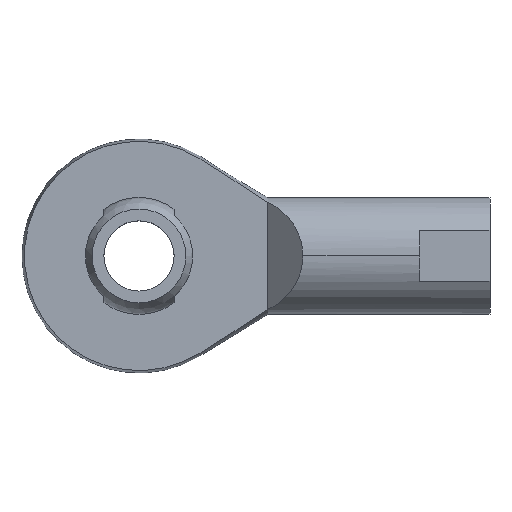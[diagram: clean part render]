
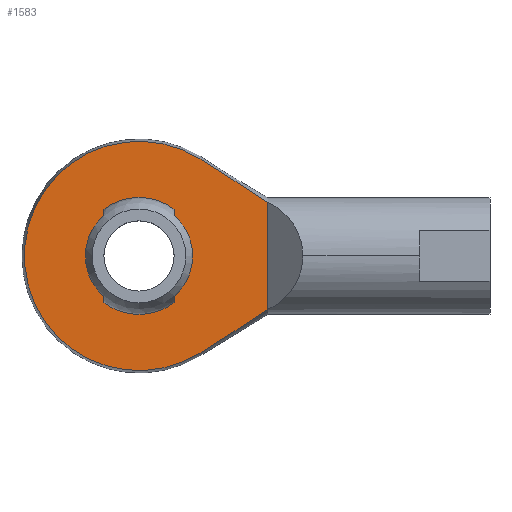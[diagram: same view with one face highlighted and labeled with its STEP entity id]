
A CAD part, top view. The second image highlights one B-rep face of the part: STEP entity #1583.
In plain terms, the highlighted planar face has unit normal (0, 0, 1).
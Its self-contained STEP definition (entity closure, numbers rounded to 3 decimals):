
#123 = DIRECTION ( 'NONE',  ( 0., -1., 0. ) ) ;
#131 = DIRECTION ( 'NONE',  ( -1., 0., 0. ) ) ;
#132 = DIRECTION ( 'NONE',  ( 0., 0., -1. ) ) ;
#141 = VECTOR ( 'NONE', #123, 1000. ) ;
#142 = CARTESIAN_POINT ( 'NONE',  ( -3., 4., 2. ) ) ;
#143 = LINE ( 'NONE', #142, #141 ) ;
#144 = CARTESIAN_POINT ( 'NONE',  ( -3., 4., 2. ) ) ;
#153 = DIRECTION ( 'NONE',  ( 0., 1., 0. ) ) ;
#154 = VECTOR ( 'NONE', #153, 1000. ) ;
#155 = CARTESIAN_POINT ( 'NONE',  ( 3., 4., 2. ) ) ;
#156 = LINE ( 'NONE', #155, #154 ) ;
#177 = ORIENTED_EDGE ( 'NONE', *, *, #1260, .T. ) ;
#182 = ORIENTED_EDGE ( 'NONE', *, *, #212, .T. ) ;
#183 = EDGE_CURVE ( 'NONE', #1368, #1285, #1158, .T. ) ;
#212 = EDGE_CURVE ( 'NONE', #1285, #1259, #1051, .T. ) ;
#233 = VERTEX_POINT ( 'NONE', #1073 ) ;
#236 = VERTEX_POINT ( 'NONE', #1088 ) ;
#244 = VERTEX_POINT ( 'NONE', #1076 ) ;
#245 = ORIENTED_EDGE ( 'NONE', *, *, #251, .T. ) ;
#248 = ORIENTED_EDGE ( 'NONE', *, *, #322, .F. ) ;
#249 = ORIENTED_EDGE ( 'NONE', *, *, #250, .F. ) ;
#250 = EDGE_CURVE ( 'NONE', #244, #233, #1099, .T. ) ;
#251 = EDGE_CURVE ( 'NONE', #1565, #236, #1062, .T. ) ;
#253 = ORIENTED_EDGE ( 'NONE', *, *, #1584, .F. ) ;
#259 = ORIENTED_EDGE ( 'NONE', *, *, #260, .F. ) ;
#260 = EDGE_CURVE ( 'NONE', #1250, #244, #1101, .T. ) ;
#278 = CARTESIAN_POINT ( 'NONE',  ( 0., 0., 2. ) ) ;
#279 = AXIS2_PLACEMENT_3D ( 'NONE', #278, #132, #131 ) ;
#280 = CIRCLE ( 'NONE', #279, 4.583 ) ;
#322 = EDGE_CURVE ( 'NONE', #233, #236, #156, .T. ) ;
#324 = VERTEX_POINT ( 'NONE', #144 ) ;
#325 = EDGE_CURVE ( 'NONE', #324, #1241, #143, .T. ) ;
#351 = CARTESIAN_POINT ( 'NONE',  ( -3., 3.464, 2. ) ) ;
#359 = DIRECTION ( 'NONE',  ( -1., 0., 0. ) ) ;
#360 = DIRECTION ( 'NONE',  ( 0., 0., 1. ) ) ;
#361 = CARTESIAN_POINT ( 'NONE',  ( 0., 0., 2. ) ) ;
#362 = AXIS2_PLACEMENT_3D ( 'NONE', #361, #360, #359 ) ;
#363 = CIRCLE ( 'NONE', #362, 9.798 ) ;
#367 = CARTESIAN_POINT ( 'NONE',  ( 5.212, 8.297, 2. ) ) ;
#383 = CARTESIAN_POINT ( 'NONE',  ( -3., -3.464, 2. ) ) ;
#408 = CARTESIAN_POINT ( 'NONE',  ( 5.212, -8.297, 2. ) ) ;
#428 = CARTESIAN_POINT ( 'NONE',  ( 11., 4.583, 2. ) ) ;
#462 = CARTESIAN_POINT ( 'NONE',  ( 11., -4.583, 2. ) ) ;
#463 = CARTESIAN_POINT ( 'NONE',  ( 10.046, -5.218, 2. ) ) ;
#464 = CARTESIAN_POINT ( 'NONE',  ( 9.083, -5.84, 2. ) ) ;
#465 = CARTESIAN_POINT ( 'NONE',  ( 7.151, -7.075, 2. ) ) ;
#466 = CARTESIAN_POINT ( 'NONE',  ( 6.182, -7.687, 2. ) ) ;
#467 = CARTESIAN_POINT ( 'NONE',  ( 5.212, -8.297, 2. ) ) ;
#469 = B_SPLINE_CURVE_WITH_KNOTS ( 'NONE', 3,
 ( #467, #466, #465, #464, #463, #462 ),
 .UNSPECIFIED., .F., .F.,
 ( 4, 2, 4 ),
 ( 0.029, 0.033, 0.036 ),
 .UNSPECIFIED. ) ;
#588 = CARTESIAN_POINT ( 'NONE',  ( 11., -4.583, 2. ) ) ;
#734 = DIRECTION ( 'NONE',  ( 1., 0., 0. ) ) ;
#735 = DIRECTION ( 'NONE',  ( 0., 0., 1. ) ) ;
#736 = CARTESIAN_POINT ( 'NONE',  ( 0., 0., 2. ) ) ;
#737 = AXIS2_PLACEMENT_3D ( 'NONE', #736, #735, #734 ) ;
#738 = CIRCLE ( 'NONE', #737, 5. ) ;
#784 = CARTESIAN_POINT ( 'NONE',  ( 3., 3.464, 2. ) ) ;
#790 = CARTESIAN_POINT ( 'NONE',  ( 3., 4., 2. ) ) ;
#802 = PLANE ( 'NONE',  #853 ) ;
#803 = FACE_OUTER_BOUND ( 'NONE', #1513, .T. ) ;
#809 = FACE_BOUND ( 'NONE', #1586, .T. ) ;
#846 = DIRECTION ( 'NONE',  ( 0., 1., 0. ) ) ;
#847 = VECTOR ( 'NONE', #846, 1000. ) ;
#848 = CARTESIAN_POINT ( 'NONE',  ( 3., 4., 2. ) ) ;
#849 = LINE ( 'NONE', #848, #847 ) ;
#850 = DIRECTION ( 'NONE',  ( -1., 0., 0. ) ) ;
#851 = DIRECTION ( 'NONE',  ( 0., 0., -1. ) ) ;
#852 = CARTESIAN_POINT ( 'NONE',  ( -10., -10., 2. ) ) ;
#853 = AXIS2_PLACEMENT_3D ( 'NONE', #852, #851, #850 ) ;
#1035 = CARTESIAN_POINT ( 'NONE',  ( 0., 0., 2. ) ) ;
#1039 = DIRECTION ( 'NONE',  ( 0., 0., -1. ) ) ;
#1051 = B_SPLINE_CURVE_WITH_KNOTS ( 'NONE', 3,
 ( #1059, #1065, #1064, #1067, #1066, #1058 ),
 .UNSPECIFIED., .F., .F.,
 ( 4, 2, 4 ),
 ( 0.05, 0.053, 0.057 ),
 .UNSPECIFIED. ) ;
#1058 = CARTESIAN_POINT ( 'NONE',  ( 5.212, 8.297, 2. ) ) ;
#1059 = CARTESIAN_POINT ( 'NONE',  ( 11., 4.583, 2. ) ) ;
#1061 = AXIS2_PLACEMENT_3D ( 'NONE', #1035, #1039, #1103 ) ;
#1062 = CIRCLE ( 'NONE', #1061, 4.583 ) ;
#1064 = CARTESIAN_POINT ( 'NONE',  ( 9.083, 5.84, 2. ) ) ;
#1065 = CARTESIAN_POINT ( 'NONE',  ( 10.046, 5.218, 2. ) ) ;
#1066 = CARTESIAN_POINT ( 'NONE',  ( 6.182, 7.687, 2. ) ) ;
#1067 = CARTESIAN_POINT ( 'NONE',  ( 7.152, 7.075, 2. ) ) ;
#1073 = CARTESIAN_POINT ( 'NONE',  ( 3., -4., 2. ) ) ;
#1076 = CARTESIAN_POINT ( 'NONE',  ( -3., -4., 2. ) ) ;
#1080 = DIRECTION ( 'NONE',  ( 0., 0., 1. ) ) ;
#1081 = CARTESIAN_POINT ( 'NONE',  ( 0., 0., 2. ) ) ;
#1082 = AXIS2_PLACEMENT_3D ( 'NONE', #1081, #1080, #1084 ) ;
#1084 = DIRECTION ( 'NONE',  ( 1., 0., 0. ) ) ;
#1088 = CARTESIAN_POINT ( 'NONE',  ( 3., -3.464, 2. ) ) ;
#1099 = CIRCLE ( 'NONE', #1082, 5. ) ;
#1101 = LINE ( 'NONE', #1104, #1105 ) ;
#1103 = DIRECTION ( 'NONE',  ( -1., 0., 0. ) ) ;
#1104 = CARTESIAN_POINT ( 'NONE',  ( -3., 4., 2. ) ) ;
#1105 = VECTOR ( 'NONE', #1106, 1000. ) ;
#1106 = DIRECTION ( 'NONE',  ( 0., -1., 0. ) ) ;
#1155 = DIRECTION ( 'NONE',  ( 0., 1., 0. ) ) ;
#1156 = VECTOR ( 'NONE', #1155, 1000. ) ;
#1157 = CARTESIAN_POINT ( 'NONE',  ( 11., -10., 2. ) ) ;
#1158 = LINE ( 'NONE', #1157, #1156 ) ;
#1234 = EDGE_CURVE ( 'NONE', #1250, #1241, #280, .T. ) ;
#1241 = VERTEX_POINT ( 'NONE', #351 ) ;
#1250 = VERTEX_POINT ( 'NONE', #383 ) ;
#1259 = VERTEX_POINT ( 'NONE', #367 ) ;
#1260 = EDGE_CURVE ( 'NONE', #1259, #1265, #363, .T. ) ;
#1265 = VERTEX_POINT ( 'NONE', #408 ) ;
#1285 = VERTEX_POINT ( 'NONE', #428 ) ;
#1292 = EDGE_CURVE ( 'NONE', #1265, #1368, #469, .T. ) ;
#1368 = VERTEX_POINT ( 'NONE', #588 ) ;
#1513 = EDGE_LOOP ( 'NONE', ( #1515, #1517, #182, #177 ) ) ;
#1514 = EDGE_CURVE ( 'NONE', #1563, #324, #738, .T. ) ;
#1515 = ORIENTED_EDGE ( 'NONE', *, *, #1292, .T. ) ;
#1516 = ORIENTED_EDGE ( 'NONE', *, *, #1514, .F. ) ;
#1517 = ORIENTED_EDGE ( 'NONE', *, *, #183, .T. ) ;
#1531 = ORIENTED_EDGE ( 'NONE', *, *, #325, .F. ) ;
#1532 = ORIENTED_EDGE ( 'NONE', *, *, #1234, .T. ) ;
#1563 = VERTEX_POINT ( 'NONE', #790 ) ;
#1565 = VERTEX_POINT ( 'NONE', #784 ) ;
#1583 = ADVANCED_FACE ( 'NONE', ( #809, #803 ), #802, .F. ) ;
#1584 = EDGE_CURVE ( 'NONE', #1565, #1563, #849, .T. ) ;
#1586 = EDGE_LOOP ( 'NONE', ( #253, #245, #248, #249, #259, #1532, #1531, #1516 ) ) ;
